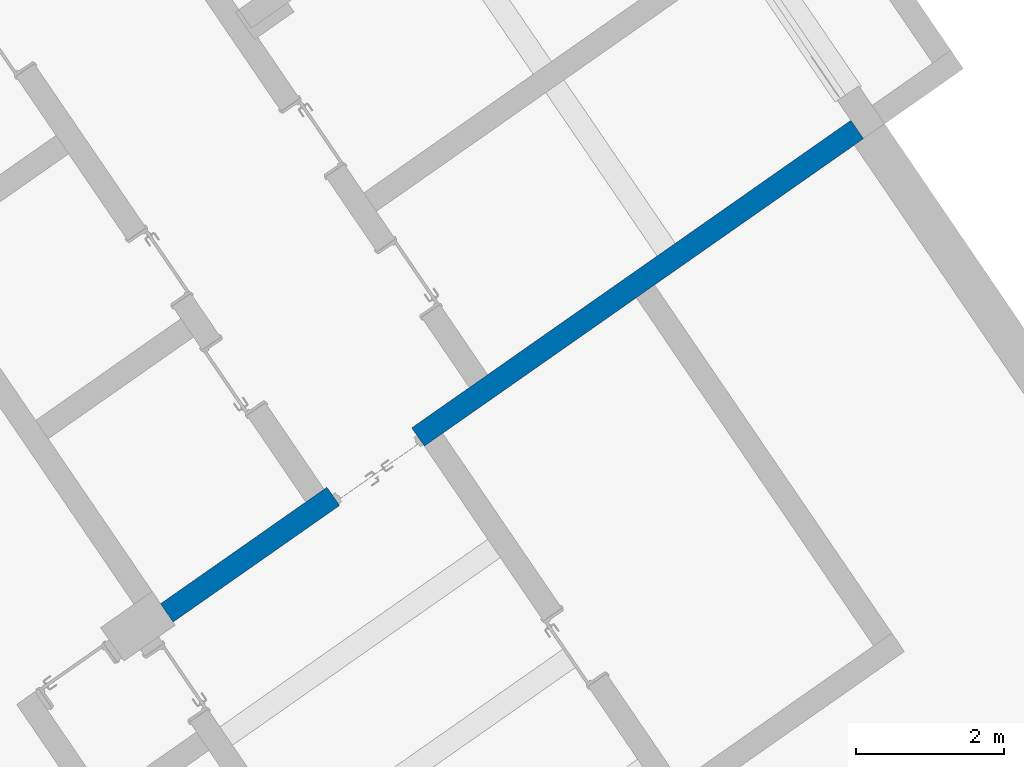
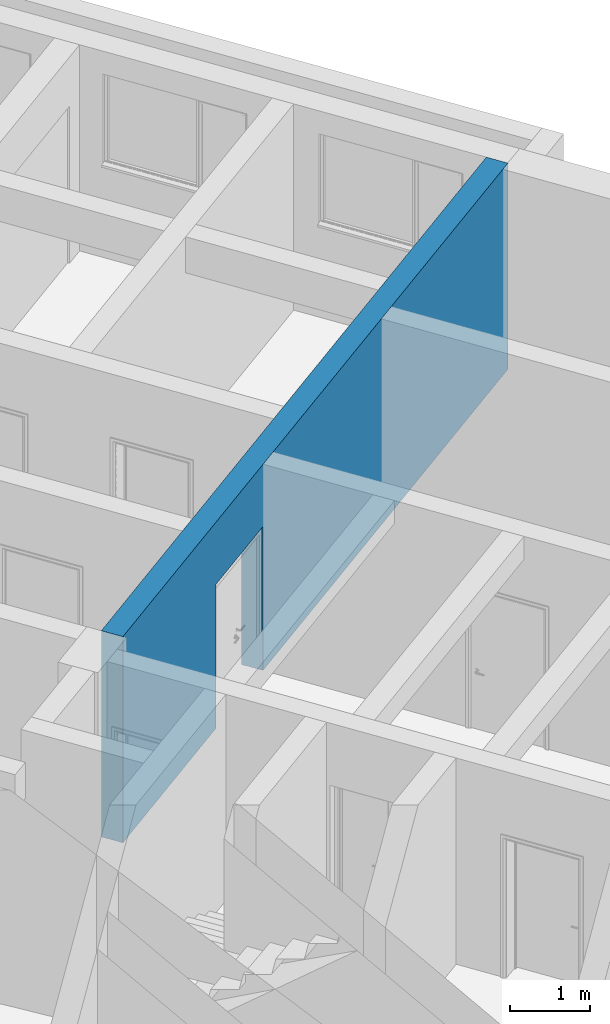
# One storey, part 48 of 112: 1 wall, 1 opening.
"""IFC2X3 building model written with IfcOpenShell, lengths in millimetres."""

from ifc_helpers import new_model, entity, si_unit, converted_unit, derived_unit, direction, frame, frame_2d, origin, place, context, subcontext, project, spatial, polyline, rectangle, outline, extrude, material, layer, layer_set, layer_usage, type_object, element, save


model = new_model("IFC2X3")

# Units and contexts
model_context = context("Model", 3, precision=0.01, world=origin(), true_north=direction((6.123031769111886e-17, 1.0)))
body_context = subcontext(model_context, "Body", "Model", "MODEL_VIEW")
ifc_project = project(units=[si_unit("LENGTHUNIT", "METRE", prefix="MILLI"), si_unit("AREAUNIT", "SQUARE_METRE"), si_unit("VOLUMEUNIT", "CUBIC_METRE"), converted_unit("PLANEANGLEUNIT", "DEGREE", entity("IfcRatioMeasure", 0.017453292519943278), si_unit("PLANEANGLEUNIT", "RADIAN"), dimensions=[0, 0, 0, 0, 0, 0, 0]), si_unit("MASSUNIT", "GRAM", prefix="KILO"), derived_unit("MASSDENSITYUNIT", [(si_unit("MASSUNIT", "GRAM", prefix="KILO"), 1), (si_unit("LENGTHUNIT", "METRE"), -3)]), derived_unit("MOMENTOFINERTIAUNIT", [(si_unit("LENGTHUNIT", "METRE"), 4)]), si_unit("TIMEUNIT", "SECOND"), si_unit("FREQUENCYUNIT", "HERTZ"), si_unit("THERMODYNAMICTEMPERATUREUNIT", "DEGREE_CELSIUS"), derived_unit("THERMALTRANSMITTANCEUNIT", [(si_unit("MASSUNIT", "GRAM", prefix="KILO"), 1), (si_unit("THERMODYNAMICTEMPERATUREUNIT", "KELVIN"), -1), (si_unit("TIMEUNIT", "SECOND"), -3)]), derived_unit("THERMALCONDUCTANCEUNIT", [(si_unit("MASSUNIT", "GRAM", prefix="KILO"), 1), (si_unit("LENGTHUNIT", "METRE"), 1), (si_unit("THERMODYNAMICTEMPERATUREUNIT", "KELVIN"), -1), (si_unit("TIMEUNIT", "SECOND"), -3)]), derived_unit("VOLUMETRICFLOWRATEUNIT", [(si_unit("LENGTHUNIT", "METRE"), 3), (si_unit("TIMEUNIT", "SECOND"), -1)]), derived_unit("MASSFLOWRATEUNIT", [(si_unit("MASSUNIT", "GRAM", prefix="KILO"), 1), (si_unit("TIMEUNIT", "SECOND"), -1)]), derived_unit("ROTATIONALFREQUENCYUNIT", [(si_unit("TIMEUNIT", "SECOND"), -1)]), si_unit("ELECTRICCURRENTUNIT", "AMPERE"), si_unit("ELECTRICVOLTAGEUNIT", "VOLT"), si_unit("POWERUNIT", "WATT"), converted_unit("FORCEUNIT", "KIP", entity("IfcRatioMeasure", 2.088543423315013e-05), si_unit("FORCEUNIT", "NEWTON"), dimensions=[1, 1, -2, 0, 0, 0, 0]), si_unit("ILLUMINANCEUNIT", "LUX"), si_unit("LUMINOUSFLUXUNIT", "LUMEN"), si_unit("LUMINOUSINTENSITYUNIT", "CANDELA"), derived_unit("USERDEFINED", [(si_unit("MASSUNIT", "GRAM", prefix="KILO"), -1), (si_unit("LENGTHUNIT", "METRE"), -2), (si_unit("TIMEUNIT", "SECOND"), 3), (si_unit("LUMINOUSFLUXUNIT", "LUMEN"), 1)]), derived_unit("USERDEFINED", [(si_unit("MASSUNIT", "GRAM", prefix="KILO"), 1), (si_unit("LENGTHUNIT", "METRE"), 3), (si_unit("TIMEUNIT", "SECOND"), -3), (si_unit("ELECTRICCURRENTUNIT", "AMPERE"), -2)]), derived_unit("USERDEFINED", [(si_unit("LENGTHUNIT", "METRE"), 2), (si_unit("TIMEUNIT", "SECOND"), -2)]), derived_unit("SOUNDPOWERUNIT", [(si_unit("MASSUNIT", "GRAM", prefix="KILO"), 1), (si_unit("LENGTHUNIT", "METRE"), 2), (si_unit("TIMEUNIT", "SECOND"), -3)]), derived_unit("SOUNDPRESSUREUNIT", [(si_unit("MASSUNIT", "GRAM", prefix="KILO"), 1), (si_unit("LENGTHUNIT", "METRE"), -1), (si_unit("TIMEUNIT", "SECOND"), -2)]), derived_unit("LINEARVELOCITYUNIT", [(si_unit("LENGTHUNIT", "METRE"), 1), (si_unit("TIMEUNIT", "SECOND"), -1)]), si_unit("PRESSUREUNIT", "PASCAL"), derived_unit("USERDEFINED", [(si_unit("LENGTHUNIT", "METRE"), -2), (si_unit("MASSUNIT", "GRAM", prefix="KILO"), 1), (si_unit("TIMEUNIT", "SECOND"), -2)]), derived_unit("LINEARFORCEUNIT", [(si_unit("MASSUNIT", "GRAM", prefix="KILO"), 1), (si_unit("LENGTHUNIT", "METRE"), 1), (si_unit("TIMEUNIT", "SECOND"), -2), (si_unit("LENGTHUNIT", "METRE"), -1)]), derived_unit("PLANARFORCEUNIT", [(si_unit("MASSUNIT", "GRAM", prefix="KILO"), 1), (si_unit("LENGTHUNIT", "METRE"), 1), (si_unit("TIMEUNIT", "SECOND"), -2), (si_unit("LENGTHUNIT", "METRE"), -2)]), derived_unit("SPECIFICHEATCAPACITYUNIT", [(si_unit("LENGTHUNIT", "METRE"), 2), (si_unit("TIMEUNIT", "SECOND"), -2), (si_unit("THERMODYNAMICTEMPERATUREUNIT", "KELVIN"), -1)]), derived_unit("VAPORPERMEABILITYUNIT", [(si_unit("TIMEUNIT", "SECOND"), 1), (si_unit("LENGTHUNIT", "METRE"), -1)]), derived_unit("DYNAMICVISCOSITYUNIT", [(si_unit("MASSUNIT", "GRAM", prefix="KILO"), 1), (si_unit("LENGTHUNIT", "METRE"), -1), (si_unit("TIMEUNIT", "SECOND"), -1)]), derived_unit("THERMALEXPANSIONCOEFFICIENTUNIT", [(si_unit("THERMODYNAMICTEMPERATUREUNIT", "KELVIN"), -1)])], contexts=[model_context])

# Site, building, storey
site_placement = place(None, frame((0.0, 0.0, 0.0), z_axis=(0.0, 0.0, 1.0), x_axis=(0.8191520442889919, 0.5735764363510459, 0.0)))
site = spatial("IfcSite", under=ifc_project, at=site_placement, Name="Default", CompositionType="ELEMENT")
building_placement = place(site_placement, origin())
building = spatial("IfcBuilding", under=site, at=building_placement, CompositionType="ELEMENT")
storey_placement = place(building_placement, frame((0.0, 0.0, -3600.0)))
storey = spatial("IfcBuildingStorey", under=building, at=storey_placement, Name="0.UG -3.60", CompositionType="ELEMENT", Elevation=-3600.0000000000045)

# Wall, opening
ifc_material = material(Name="Analytical Wall Surface_CJC")
ifc_layer = layer(ifc_material, 300.0)
ifc_layer_set = layer_set([ifc_layer], Name="Basic Wall:Wand_Innen_30")
ifc_layer_usage = layer_usage(ifc_layer_set, "AXIS2", "NEGATIVE", 150.0)
wall_type = type_object("IfcWallType", Name="Basic Wall:Wand_Innen_30", PredefinedType="STANDARD", material=ifc_layer_set)
wall_placement = place(storey_placement, frame((-217190.6051608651, 61421.35891435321, 300.0)))
wall = element("IfcWallStandardCase", 1, at=wall_placement, inside=storey, type_object=wall_type, material=ifc_layer_usage, Name="Basic Wall:Wand_Innen_30", ObjectType="Basic Wall:Wand_Innen_30", context=body_context, shape_type="SweptSolid", body=[
    extrude(outline(polyline([(0.0, -150.0), (4150.324124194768, -150.0), (4450.348433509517, -150.0), (7650.607732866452, -150.0), (7950.632042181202, -150.0), (11400.90921935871, -150.0), (11404.728418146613, 150.0), (8504.507949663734, 150.0), (8204.483640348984, 150.0), (5404.256753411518, 150.0), (5104.232444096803, 150.0), (2704.037969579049, 150.0), (2404.013660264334, 150.0), (3.8191857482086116, 150.0), (0.0, -150.0)])), origin(), (0.0, 0.0, 1.0), 3150.000000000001),
])
opening_placement = place(wall_placement, frame((4150.851440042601, 150.0, 0.0)))
element("IfcOpeningElement", 2, at=opening_placement, cuts=wall, Name="M_Door-Passage-Double-Flush:130x210:1", ObjectType="Opening", context=body_context, shape_type="SweptSolid", body=[
    extrude(rectangle(XDim=2200.0, YDim=1399.999999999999, at=frame_2d((1100.0, 699.9999999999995), x_axis=(1.0, 0.0))), frame((0.0, 0.0, 0.0), z_axis=(0.0, -1.0, 0.0), x_axis=(0.0, 0.0, 1.0)), (0.0, 0.0, 1.0), 300.0),
])

save(model, "model.ifc")
